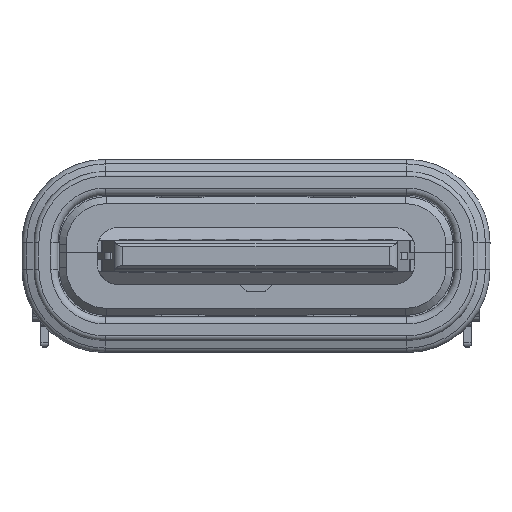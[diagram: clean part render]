
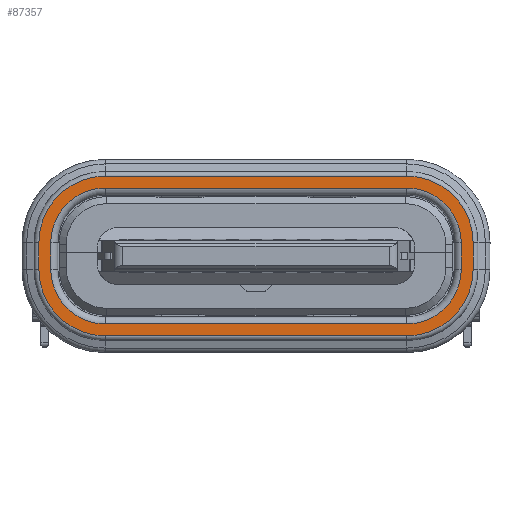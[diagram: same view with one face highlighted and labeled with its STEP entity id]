
A CAD part, front view. The second image highlights one B-rep face of the part: STEP entity #87357.
In plain terms, the highlighted planar face has unit normal (0, -1, 0) as drawn and (0, 0, 1) by its records, which use the part's own axes.
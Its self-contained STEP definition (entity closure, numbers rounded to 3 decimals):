
#1261 = CIRCLE ( 'NONE', #32271, 1.4 ) ;
#1550 = FACE_OUTER_BOUND ( 'NONE', #46364, .T. ) ;
#1658 = VERTEX_POINT ( 'NONE', #57494 ) ;
#3062 = CIRCLE ( 'NONE', #69828, 1.15 ) ;
#3508 = CARTESIAN_POINT ( 'NONE',  ( -3.17, -1.68, 0. ) ) ;
#3595 = ORIENTED_EDGE ( 'NONE', *, *, #59970, .T. ) ;
#3946 = DIRECTION ( 'NONE',  ( 0., 0., 1. ) ) ;
#4364 = CARTESIAN_POINT ( 'NONE',  ( 3.17, 0.28, 0. ) ) ;
#4753 = CARTESIAN_POINT ( 'NONE',  ( 4.57, -0.28, 0. ) ) ;
#4824 = LINE ( 'NONE', #47646, #55140 ) ;
#5913 = VERTEX_POINT ( 'NONE', #42738 ) ;
#7493 = EDGE_LOOP ( 'NONE', ( #84422, #18166, #67783, #84126, #25595, #65866, #3595, #32641 ) ) ;
#11393 = EDGE_CURVE ( 'NONE', #89976, #90497, #13280, .T. ) ;
#13280 = LINE ( 'NONE', #95418, #78734 ) ;
#16278 = ORIENTED_EDGE ( 'NONE', *, *, #11393, .T. ) ;
#16502 = VERTEX_POINT ( 'NONE', #16647 ) ;
#16647 = CARTESIAN_POINT ( 'NONE',  ( 4.32, 0.28, 0. ) ) ;
#17407 = CARTESIAN_POINT ( 'NONE',  ( -4.32, 0.28, 0. ) ) ;
#18092 = CARTESIAN_POINT ( 'NONE',  ( -3.17, 1.43, 0. ) ) ;
#18166 = ORIENTED_EDGE ( 'NONE', *, *, #34551, .T. ) ;
#19243 = AXIS2_PLACEMENT_3D ( 'NONE', #77843, #3946, #71494 ) ;
#19907 = VERTEX_POINT ( 'NONE', #76809 ) ;
#20721 = EDGE_CURVE ( 'NONE', #32495, #19907, #30910, .T. ) ;
#22665 = DIRECTION ( 'NONE',  ( -1., 0., 0. ) ) ;
#23912 = VECTOR ( 'NONE', #56765, 1000. ) ;
#24458 = DIRECTION ( 'NONE',  ( 1., 0., 0. ) ) ;
#24880 = EDGE_CURVE ( 'NONE', #5913, #1658, #50628, .T. ) ;
#25595 = ORIENTED_EDGE ( 'NONE', *, *, #63291, .T. ) ;
#25850 = LINE ( 'NONE', #18092, #90356 ) ;
#26404 = DIRECTION ( 'NONE',  ( 0., 0., -1. ) ) ;
#27176 = ORIENTED_EDGE ( 'NONE', *, *, #65491, .T. ) ;
#27402 = DIRECTION ( 'NONE',  ( 0., -1., 0. ) ) ;
#27644 = CARTESIAN_POINT ( 'NONE',  ( 4.32, -0.28, 0. ) ) ;
#27726 = CARTESIAN_POINT ( 'NONE',  ( -3.17, 0.28, 0. ) ) ;
#28534 = VERTEX_POINT ( 'NONE', #41147 ) ;
#29386 = CARTESIAN_POINT ( 'NONE',  ( -4.57, -0.28, 0. ) ) ;
#29481 = ORIENTED_EDGE ( 'NONE', *, *, #24880, .T. ) ;
#30910 = LINE ( 'NONE', #31849, #84165 ) ;
#31707 = CARTESIAN_POINT ( 'NONE',  ( 3.17, -0.28, 0. ) ) ;
#31849 = CARTESIAN_POINT ( 'NONE',  ( 3.17, -1.43, 0. ) ) ;
#32271 = AXIS2_PLACEMENT_3D ( 'NONE', #27726, #64652, #72919 ) ;
#32430 = AXIS2_PLACEMENT_3D ( 'NONE', #4364, #92848, #94271 ) ;
#32495 = VERTEX_POINT ( 'NONE', #89107 ) ;
#32641 = ORIENTED_EDGE ( 'NONE', *, *, #37124, .T. ) ;
#33824 = DIRECTION ( 'NONE',  ( -1., 0., 0. ) ) ;
#34288 = DIRECTION ( 'NONE',  ( 0., 0., 1. ) ) ;
#34471 = EDGE_CURVE ( 'NONE', #79714, #5913, #91523, .T. ) ;
#34551 = EDGE_CURVE ( 'NONE', #41264, #32495, #47500, .T. ) ;
#36600 = DIRECTION ( 'NONE',  ( 0., -1., 0. ) ) ;
#37124 = EDGE_CURVE ( 'NONE', #86215, #16502, #83657, .T. ) ;
#37369 = DIRECTION ( 'NONE',  ( 0., 0., -1. ) ) ;
#37465 = EDGE_CURVE ( 'NONE', #16502, #41264, #41024, .T. ) ;
#41024 = LINE ( 'NONE', #56554, #87678 ) ;
#41147 = CARTESIAN_POINT ( 'NONE',  ( 4.57, 0.28, 0. ) ) ;
#41264 = VERTEX_POINT ( 'NONE', #27644 ) ;
#42309 = CARTESIAN_POINT ( 'NONE',  ( -3.17, 1.68, 0. ) ) ;
#42738 = CARTESIAN_POINT ( 'NONE',  ( 3.17, -1.68, 0. ) ) ;
#44687 = CARTESIAN_POINT ( 'NONE',  ( -3.17, 0.28, 0. ) ) ;
#44845 = FACE_BOUND ( 'NONE', #7493, .T. ) ;
#46364 = EDGE_LOOP ( 'NONE', ( #16278, #58903, #58006, #29481, #27176, #47803, #78804, #87979 ) ) ;
#46771 = DIRECTION ( 'NONE',  ( 0., 0., 1. ) ) ;
#47500 = CIRCLE ( 'NONE', #67663, 1.15 ) ;
#47646 = CARTESIAN_POINT ( 'NONE',  ( -4.32, -0.28, 0. ) ) ;
#47803 = ORIENTED_EDGE ( 'NONE', *, *, #80603, .T. ) ;
#50628 = CIRCLE ( 'NONE', #80125, 1.4 ) ;
#50699 = AXIS2_PLACEMENT_3D ( 'NONE', #80453, #34288, #33824 ) ;
#52370 = CARTESIAN_POINT ( 'NONE',  ( 3.17, 1.68, 0. ) ) ;
#53080 = DIRECTION ( 'NONE',  ( 0., -1., 0. ) ) ;
#54609 = DIRECTION ( 'NONE',  ( 0., -1., 0. ) ) ;
#55140 = VECTOR ( 'NONE', #55409, 1000. ) ;
#55409 = DIRECTION ( 'NONE',  ( 0., 1., 0. ) ) ;
#55584 = CARTESIAN_POINT ( 'NONE',  ( -3.17, -0.28, 0. ) ) ;
#56554 = CARTESIAN_POINT ( 'NONE',  ( 4.32, 0.28, 0. ) ) ;
#56765 = DIRECTION ( 'NONE',  ( -1., 0., 0. ) ) ;
#57494 = CARTESIAN_POINT ( 'NONE',  ( 4.57, -0.28, 0. ) ) ;
#57605 = VERTEX_POINT ( 'NONE', #95150 ) ;
#57856 = VERTEX_POINT ( 'NONE', #52370 ) ;
#58006 = ORIENTED_EDGE ( 'NONE', *, *, #34471, .T. ) ;
#58903 = ORIENTED_EDGE ( 'NONE', *, *, #65984, .T. ) ;
#59878 = PLANE ( 'NONE',  #91568 ) ;
#59970 = EDGE_CURVE ( 'NONE', #86301, #86215, #25850, .T. ) ;
#61364 = DIRECTION ( 'NONE',  ( 0., 0., -1. ) ) ;
#61701 = CARTESIAN_POINT ( 'NONE',  ( -3.17, -1.68, 0. ) ) ;
#61797 = CARTESIAN_POINT ( 'NONE',  ( 3.17, 1.43, 0. ) ) ;
#62323 = DIRECTION ( 'NONE',  ( 1., 0., 0. ) ) ;
#63291 = EDGE_CURVE ( 'NONE', #57605, #76149, #4824, .T. ) ;
#64652 = DIRECTION ( 'NONE',  ( 0., 0., 1. ) ) ;
#65491 = EDGE_CURVE ( 'NONE', #1658, #28534, #78656, .T. ) ;
#65866 = ORIENTED_EDGE ( 'NONE', *, *, #76049, .T. ) ;
#65984 = EDGE_CURVE ( 'NONE', #90497, #79714, #95676, .T. ) ;
#67663 = AXIS2_PLACEMENT_3D ( 'NONE', #31707, #61364, #24458 ) ;
#67783 = ORIENTED_EDGE ( 'NONE', *, *, #20721, .T. ) ;
#69828 = AXIS2_PLACEMENT_3D ( 'NONE', #55584, #26404, #54609 ) ;
#70433 = CIRCLE ( 'NONE', #19243, 1.4 ) ;
#71324 = EDGE_CURVE ( 'NONE', #19907, #57605, #3062, .T. ) ;
#71494 = DIRECTION ( 'NONE',  ( 1., 0., 0. ) ) ;
#71817 = VERTEX_POINT ( 'NONE', #42309 ) ;
#72919 = DIRECTION ( 'NONE',  ( 0., 1., 0. ) ) ;
#73160 = AXIS2_PLACEMENT_3D ( 'NONE', #44687, #37369, #82097 ) ;
#74688 = CIRCLE ( 'NONE', #73160, 1.15 ) ;
#74708 = EDGE_CURVE ( 'NONE', #57856, #71817, #85031, .T. ) ;
#75911 = CARTESIAN_POINT ( 'NONE',  ( -3.17, 1.43, 0. ) ) ;
#75927 = DIRECTION ( 'NONE',  ( 1., 0., 0. ) ) ;
#76049 = EDGE_CURVE ( 'NONE', #76149, #86301, #74688, .T. ) ;
#76149 = VERTEX_POINT ( 'NONE', #17407 ) ;
#76809 = CARTESIAN_POINT ( 'NONE',  ( -3.17, -1.43, 0. ) ) ;
#77843 = CARTESIAN_POINT ( 'NONE',  ( 3.17, 0.28, 0. ) ) ;
#78656 = LINE ( 'NONE', #4753, #81643 ) ;
#78734 = VECTOR ( 'NONE', #36600, 1000. ) ;
#78804 = ORIENTED_EDGE ( 'NONE', *, *, #74708, .T. ) ;
#79714 = VERTEX_POINT ( 'NONE', #61701 ) ;
#80125 = AXIS2_PLACEMENT_3D ( 'NONE', #91491, #46771, #53080 ) ;
#80453 = CARTESIAN_POINT ( 'NONE',  ( -3.17, -0.28, 0. ) ) ;
#80603 = EDGE_CURVE ( 'NONE', #28534, #57856, #70433, .T. ) ;
#81643 = VECTOR ( 'NONE', #94195, 1000. ) ;
#81784 = CARTESIAN_POINT ( 'NONE',  ( 0., 1.555, 0. ) ) ;
#82097 = DIRECTION ( 'NONE',  ( -1., 0., 0. ) ) ;
#83213 = DIRECTION ( 'NONE',  ( 0., 0., 1. ) ) ;
#83657 = CIRCLE ( 'NONE', #32430, 1.15 ) ;
#84126 = ORIENTED_EDGE ( 'NONE', *, *, #71324, .T. ) ;
#84165 = VECTOR ( 'NONE', #22665, 1000. ) ;
#84422 = ORIENTED_EDGE ( 'NONE', *, *, #37465, .T. ) ;
#84767 = VECTOR ( 'NONE', #62323, 1000. ) ;
#85031 = LINE ( 'NONE', #92284, #23912 ) ;
#86215 = VERTEX_POINT ( 'NONE', #61797 ) ;
#86301 = VERTEX_POINT ( 'NONE', #75911 ) ;
#86380 = EDGE_CURVE ( 'NONE', #71817, #89976, #1261, .T. ) ;
#87357 = ADVANCED_FACE ( 'NONE', ( #1550, #44845 ), #59878, .T. ) ;
#87678 = VECTOR ( 'NONE', #27402, 1000. ) ;
#87846 = CARTESIAN_POINT ( 'NONE',  ( -4.57, 0.28, 0. ) ) ;
#87979 = ORIENTED_EDGE ( 'NONE', *, *, #86380, .T. ) ;
#89107 = CARTESIAN_POINT ( 'NONE',  ( 3.17, -1.43, 0. ) ) ;
#89976 = VERTEX_POINT ( 'NONE', #87846 ) ;
#90356 = VECTOR ( 'NONE', #91963, 1000. ) ;
#90497 = VERTEX_POINT ( 'NONE', #29386 ) ;
#91491 = CARTESIAN_POINT ( 'NONE',  ( 3.17, -0.28, 0. ) ) ;
#91523 = LINE ( 'NONE', #3508, #84767 ) ;
#91568 = AXIS2_PLACEMENT_3D ( 'NONE', #81784, #83213, #75927 ) ;
#91963 = DIRECTION ( 'NONE',  ( 1., 0., 0. ) ) ;
#92284 = CARTESIAN_POINT ( 'NONE',  ( 3.17, 1.68, 0. ) ) ;
#92848 = DIRECTION ( 'NONE',  ( 0., 0., -1. ) ) ;
#94195 = DIRECTION ( 'NONE',  ( 0., 1., 0. ) ) ;
#94271 = DIRECTION ( 'NONE',  ( 0., 1., 0. ) ) ;
#95150 = CARTESIAN_POINT ( 'NONE',  ( -4.32, -0.28, 0. ) ) ;
#95418 = CARTESIAN_POINT ( 'NONE',  ( -4.57, 0.28, 0. ) ) ;
#95676 = CIRCLE ( 'NONE', #50699, 1.4 ) ;
